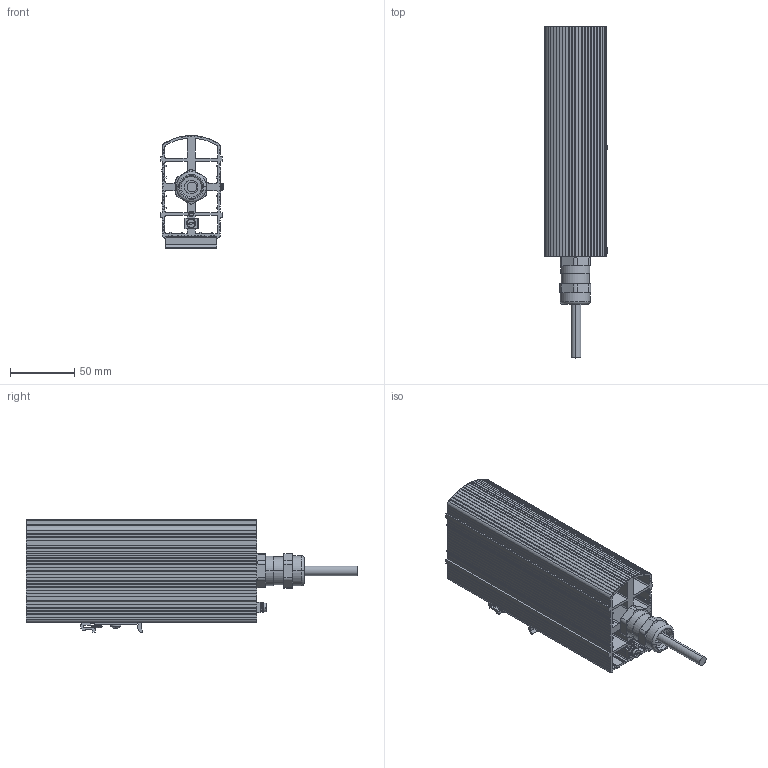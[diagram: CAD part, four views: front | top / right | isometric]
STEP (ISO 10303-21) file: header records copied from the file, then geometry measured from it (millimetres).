
FILE_DESCRIPTION (( 'STEP AP214' ), '1' );
FILE_NAME ('02032.x-0x_Ex-Heizgeraet.STEP', '2017-08-08T12:45:39', ( '' ), ( '' ), 'SwSTEP 2.0', 'SolidWorks 2017', '' );
FILE_SCHEMA (( 'AUTOMOTIVE_DESIGN' ));
Length unit declared in the file: millimetre
Products named in the file (1): 02032.x-0x_Ex-Heizgeraet
Bounding box: 49.16 x 259 x 88 mm (x, y, z)
Surface area: 165679.8 mm2 (no closed solid volume)
Topology: 0 solids, 15 shells, 644 faces, 2083 edges, 1397 vertices
Faces by surface type: plane 454, cylinder 131, cone 28, torus 24, sphere 6, bspline 1
Entity records: 30102 total; most frequent: CARTESIAN_POINT 4717, ORIENTED_EDGE 3776, DIRECTION 3664, EDGE_CURVE 2083, VECTOR 1586, LINE 1586, VERTEX_POINT 1397, AXIS2_PLACEMENT_3D 1039
